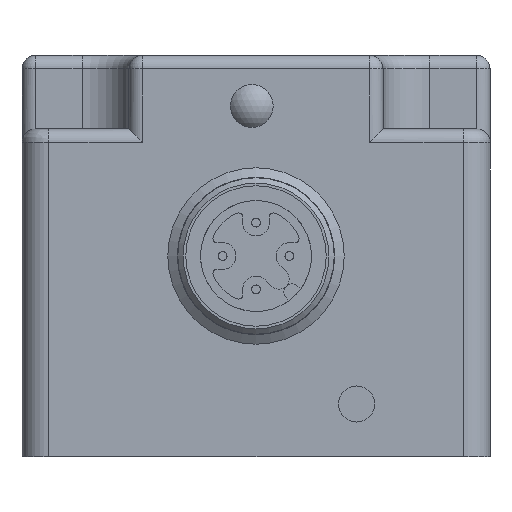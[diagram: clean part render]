
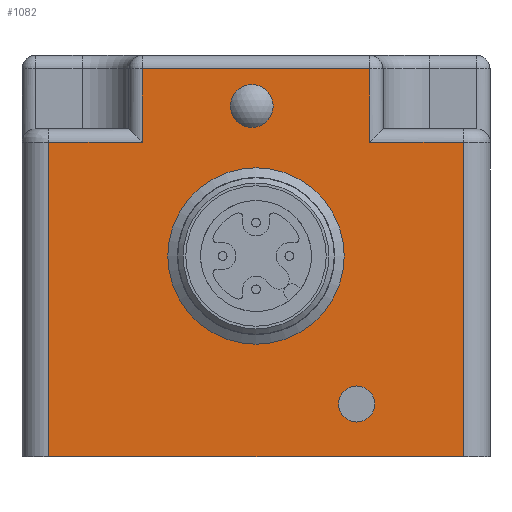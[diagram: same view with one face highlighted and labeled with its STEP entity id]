
A CAD part, left-side view. The second image highlights one B-rep face of the part: STEP entity #1082.
In plain terms, the highlighted planar face has unit normal (-1, 0, 0).
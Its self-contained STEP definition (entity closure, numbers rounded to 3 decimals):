
#222=CARTESIAN_POINT('',(-42.5,8.5,29.0));
#223=VERTEX_POINT('',#222);
#266=CARTESIAN_POINT('',(-42.5,-8.5,29.0));
#267=VERTEX_POINT('',#266);
#291=CARTESIAN_POINT('',(-42.5,8.5,29.0));
#292=DIRECTION('',(0.0,-1.0,0.0));
#293=VECTOR('',#292,17.0);
#294=LINE('',#291,#293);
#295=EDGE_CURVE('',#223,#267,#294,.T.);
#321=CARTESIAN_POINT('',(-42.5,-8.5,23.5));
#322=VERTEX_POINT('',#321);
#323=CARTESIAN_POINT('',(-42.5,-8.5,29.0));
#324=DIRECTION('',(0.0,0.0,-1.0));
#325=VECTOR('',#324,5.5);
#326=LINE('',#323,#325);
#327=EDGE_CURVE('',#267,#322,#326,.T.);
#376=CARTESIAN_POINT('',(-42.5,8.5,23.5));
#377=VERTEX_POINT('',#376);
#378=CARTESIAN_POINT('',(-42.5,8.5,23.5));
#379=DIRECTION('',(0.0,0.0,1.0));
#380=VECTOR('',#379,5.5);
#381=LINE('',#378,#380);
#382=EDGE_CURVE('',#377,#223,#381,.T.);
#440=CARTESIAN_POINT('',(-42.5,-15.5,23.5));
#441=VERTEX_POINT('',#440);
#458=CARTESIAN_POINT('',(-42.5,-8.5,23.5));
#459=DIRECTION('',(0.0,-1.0,0.0));
#460=VECTOR('',#459,7.);
#461=LINE('',#458,#460);
#462=EDGE_CURVE('',#322,#441,#461,.T.);
#508=CARTESIAN_POINT('',(-42.5,15.5,23.5));
#509=VERTEX_POINT('',#508);
#517=CARTESIAN_POINT('',(-42.5,15.5,23.5));
#518=DIRECTION('',(0.0,-1.0,0.0));
#519=VECTOR('',#518,7.);
#520=LINE('',#517,#519);
#521=EDGE_CURVE('',#509,#377,#520,.T.);
#1026=CARTESIAN_POINT('',(-42.5,-17.5,0.0));
#1027=DIRECTION('',(-1.0,0.0,0.0));
#1028=DIRECTION('',(0.0,0.0,1.0));
#1029=AXIS2_PLACEMENT_3D('',#1026,#1027,#1028);
#1030=PLANE('',#1029);
#1031=ORIENTED_EDGE('',*,*,#462,.F.);
#1032=ORIENTED_EDGE('',*,*,#327,.F.);
#1033=ORIENTED_EDGE('',*,*,#295,.F.);
#1034=ORIENTED_EDGE('',*,*,#382,.F.);
#1035=ORIENTED_EDGE('',*,*,#521,.F.);
#1036=CARTESIAN_POINT('',(-42.5,15.5,0.0));
#1037=VERTEX_POINT('',#1036);
#1038=CARTESIAN_POINT('',(-42.5,15.5,0.0));
#1039=DIRECTION('',(0.0,0.0,1.0));
#1040=VECTOR('',#1039,23.5);
#1041=LINE('',#1038,#1040);
#1042=EDGE_CURVE('',#1037,#509,#1041,.T.);
#1043=ORIENTED_EDGE('',*,*,#1042,.F.);
#1044=CARTESIAN_POINT('',(-42.5,-15.5,0.0));
#1045=VERTEX_POINT('',#1044);
#1046=CARTESIAN_POINT('',(-42.5,15.5,0.0));
#1047=DIRECTION('',(0.0,-1.0,0.0));
#1048=VECTOR('',#1047,31.);
#1049=LINE('',#1046,#1048);
#1050=EDGE_CURVE('',#1037,#1045,#1049,.T.);
#1051=ORIENTED_EDGE('',*,*,#1050,.T.);
#1052=CARTESIAN_POINT('',(-42.5,-15.5,23.5));
#1053=DIRECTION('',(0.0,0.0,-1.0));
#1054=VECTOR('',#1053,23.5);
#1055=LINE('',#1052,#1054);
#1056=EDGE_CURVE('',#441,#1045,#1055,.T.);
#1057=ORIENTED_EDGE('',*,*,#1056,.F.);
#1058=EDGE_LOOP('',(#1031,#1032,#1033,#1034,#1035,#1043,#1051,#1057));
#1059=FACE_OUTER_BOUND('',#1058,.T.);
#1060=CARTESIAN_POINT('',(-42.5,-7.529,5.28));
#1061=VERTEX_POINT('',#1060);
#1062=CARTESIAN_POINT('',(-42.5,-7.529,3.93));
#1063=DIRECTION('',(1.0,0.0,0.0));
#1064=DIRECTION('',(0.0,0.0,-1.0));
#1065=AXIS2_PLACEMENT_3D('',#1062,#1063,#1064);
#1066=CIRCLE('',#1065,1.35);
#1067=EDGE_CURVE('',#1061,#1061,#1066,.T.);
#1068=ORIENTED_EDGE('',*,*,#1067,.T.);
#1069=EDGE_LOOP('',(#1068));
#1070=FACE_BOUND('',#1069,.T.);
#1071=CARTESIAN_POINT('',(-42.5,0.316,27.816));
#1072=VERTEX_POINT('',#1071);
#1073=CARTESIAN_POINT('',(-42.5,0.316,26.216));
#1074=DIRECTION('',(1.0,0.0,0.0));
#1075=DIRECTION('',(0.0,0.0,-1.0));
#1076=AXIS2_PLACEMENT_3D('',#1073,#1074,#1075);
#1077=CIRCLE('',#1076,1.6);
#1078=EDGE_CURVE('',#1072,#1072,#1077,.T.);
#1079=ORIENTED_EDGE('',*,*,#1078,.T.);
#1080=EDGE_LOOP('',(#1079));
#1081=FACE_BOUND('',#1080,.T.);
#1082=ADVANCED_FACE('',(#1059,#1070,#1081),#1030,.T.);
